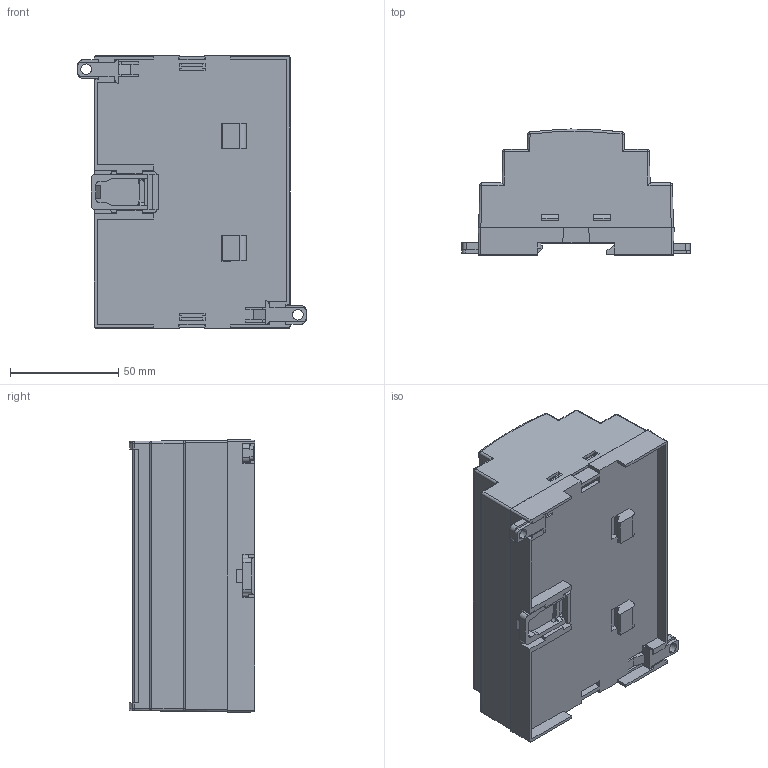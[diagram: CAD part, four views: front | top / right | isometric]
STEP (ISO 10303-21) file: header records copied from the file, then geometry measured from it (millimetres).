
FILE_DESCRIPTION (( 'STEP AP203' ), '1' );
FILE_NAME ('RT-207-A.STEP', '2022-03-18T13:09:23', ( '' ), ( '' ), 'SwSTEP 2.0', 'SolidWorks 2021', '' );
FILE_SCHEMA (( 'CONFIG_CONTROL_DESIGN' ));
Length unit declared in the file: millimetre
Products named in the file (6): RT-107-TOP_BODY_A; A-102; RT-107-Panel; A-101; RT-207-A; RT-107_BASE
Assembly tree (6 placements, depth 2):
  RT-207-A
    RT-107_BASE
    RT-107-TOP_BODY_A
    A-101  x2
    A-102
    RT-107-Panel
Bounding box: 105.56 x 58.1 x 126.2 mm (x, y, z)
Volume: 86360.3 mm3; surface area: 96938.7 mm2
Topology: 6 solids, 6 shells, 546 faces, 1525 edges, 990 vertices
Faces by surface type: plane 440, cylinder 79, cone 12, sphere 12, bspline 3
Entity records: 17184 total; most frequent: CARTESIAN_POINT 3044, ORIENTED_EDGE 2902, DIRECTION 2639, EDGE_CURVE 1451, LINE 1265, VECTOR 1265, VERTEX_POINT 946, AXIS2_PLACEMENT_3D 687
